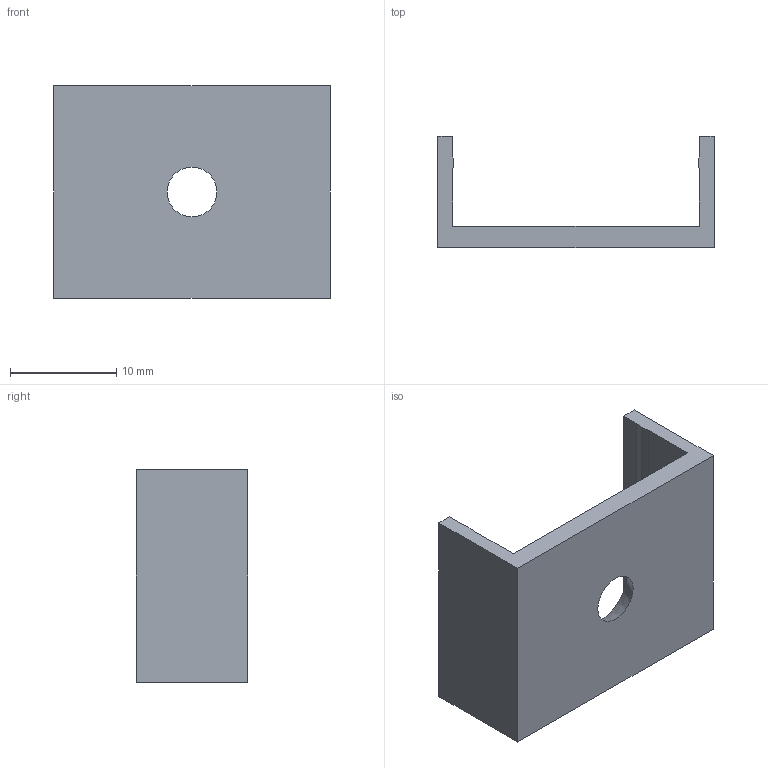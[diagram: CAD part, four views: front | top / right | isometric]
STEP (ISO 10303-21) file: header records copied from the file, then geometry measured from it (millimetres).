
FILE_DESCRIPTION (( 'STEP AP214' ), '1' );
FILE_NAME ('STRONG spona pro LED profil Fanto_342533_3D.STEP', '2020-06-09T10:07:22', ( '' ), ( '' ), 'SwSTEP 2.0', 'SolidWorks 2019', '' );
FILE_SCHEMA (( 'AUTOMOTIVE_DESIGN' ));
Length unit declared in the file: millimetre
Products named in the file (1): STRONG spona pro LED profil Fanto_342533_3D
Bounding box: 26 x 10.5 x 20 mm (x, y, z)
Volume: 1464.6 mm3; surface area: 1939.1 mm2
Topology: 1 solids, 1 shells, 17 faces, 46 edges, 31 vertices
Faces by surface type: plane 16, cone 1
Entity records: 554 total; most frequent: CARTESIAN_POINT 92, ORIENTED_EDGE 88, DIRECTION 82, EDGE_CURVE 44, VECTOR 42, LINE 42, VERTEX_POINT 30, EDGE_LOOP 20
